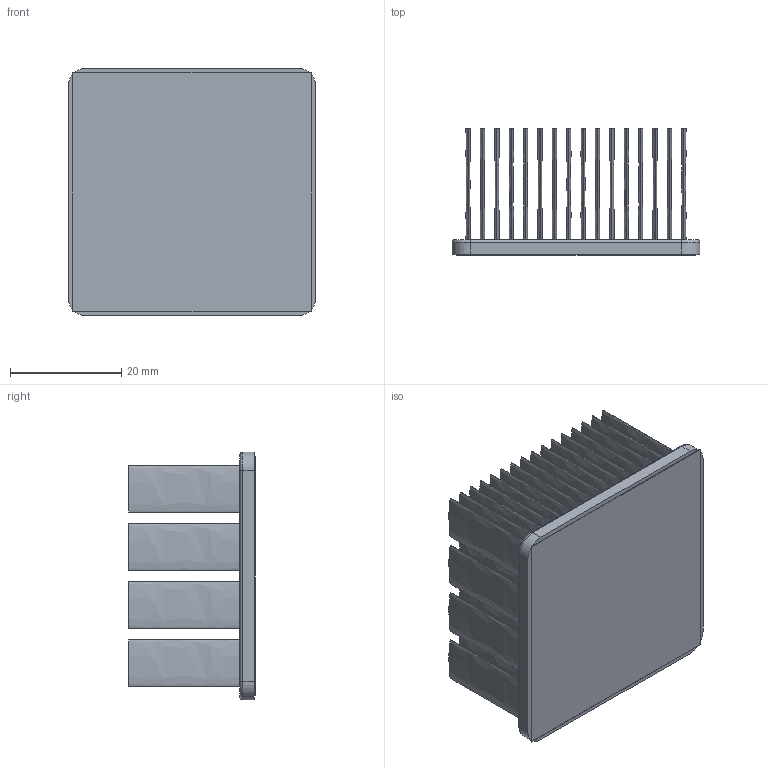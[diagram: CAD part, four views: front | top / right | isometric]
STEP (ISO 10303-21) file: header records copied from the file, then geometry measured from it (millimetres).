
FILE_DESCRIPTION (( 'STEP AP214' ), '1' );
FILE_NAME ('INM45001-23W-2.6.STEP', '2023-02-28T00:44:26', ( '' ), ( '' ), 'SwSTEP 2.0', 'SolidWorks 2020', '' );
FILE_SCHEMA (( 'AUTOMOTIVE_DESIGN' ));
Length unit declared in the file: inch
Products named in the file (1): INM45001-23W-2.6
Bounding box: 44.6 x 22.73 x 44.6 mm (x, y, z)
Volume: 12305.2 mm3; surface area: 30131.8 mm2
Topology: 2 solids, 2 shells, 216 faces, 436 edges, 288 vertices
Faces by surface type: bspline 128, plane 76, cylinder 8, torus 4
Entity records: 8759 total; most frequent: CARTESIAN_POINT 2605, ORIENTED_EDGE 872, EDGE_CURVE 436, DIRECTION 378, VERTEX_POINT 288, EDGE_LOOP 280, DIMENSIONAL_EXPONENTS 220, LENGTH_MEASURE_WITH_UNIT 220
